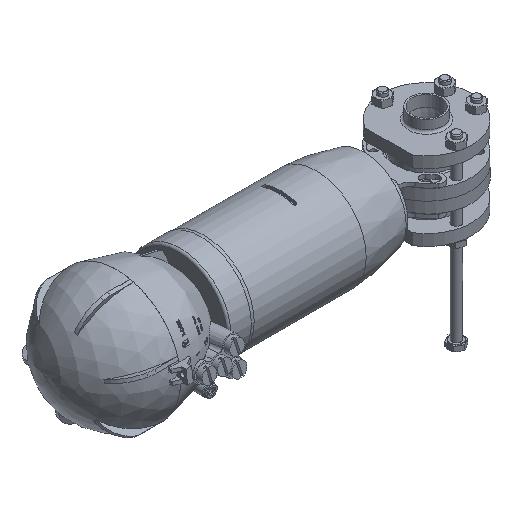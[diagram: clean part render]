
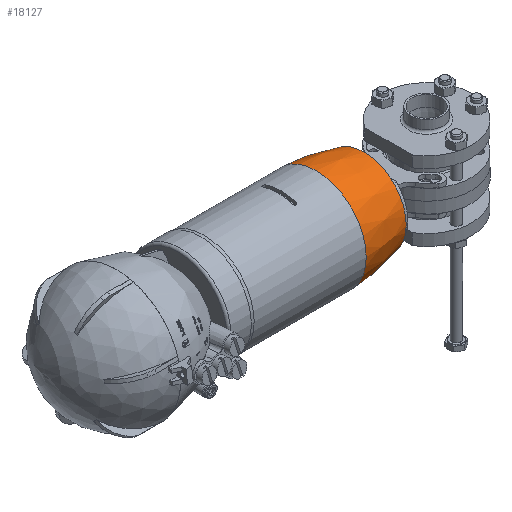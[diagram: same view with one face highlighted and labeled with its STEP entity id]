
A CAD part, isometric view. The second image highlights one B-rep face of the part: STEP entity #18127.
In plain terms, the highlighted free-form (B-spline) face has degree [2, 2] with [3, 9] control points.
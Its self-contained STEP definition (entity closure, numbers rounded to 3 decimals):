
#344=(
BOUNDED_SURFACE()
B_SPLINE_SURFACE(2,2,((#28505,#28506,#28507,#28508,#28509,#28510,#28511,
#28512,#28513),(#28514,#28515,#28516,#28517,#28518,#28519,#28520,#28521,
#28522),(#28523,#28524,#28525,#28526,#28527,#28528,#28529,#28530,#28531)),
 .UNSPECIFIED.,.F.,.T.,.F.)
B_SPLINE_SURFACE_WITH_KNOTS((3,3),(3,2,2,2,3),(0.027,0.298),
(-3.142,-1.571,0.,1.571,3.142),
 .UNSPECIFIED.)
GEOMETRIC_REPRESENTATION_ITEM()
RATIONAL_B_SPLINE_SURFACE(((1.,0.707,1.,0.707,1.,
0.707,1.,0.707,1.),(0.991,0.701,
0.991,0.701,0.991,0.701,0.991,
0.701,0.991),(1.,0.707,1.,0.707,
1.,0.707,1.,0.707,1.)))
REPRESENTATION_ITEM('')
SURFACE()
);
#2917=FACE_OUTER_BOUND('',#3960,.T.);
#3960=EDGE_LOOP('',(#13100,#13101,#13102,#13103,#13104,#13105));
#7155=CIRCLE('',#19460,44.5);
#7156=CIRCLE('',#19461,44.5);
#7158=CIRCLE('',#19463,44.5);
#7190=CIRCLE('',#19518,37.5);
#7199=CIRCLE('',#19527,160.);
#8085=VERTEX_POINT('',#28238);
#8086=VERTEX_POINT('',#28239);
#8087=VERTEX_POINT('',#28241);
#8121=VERTEX_POINT('',#28487);
#9983=EDGE_CURVE('',#8085,#8086,#7155,.T.);
#9984=EDGE_CURVE('',#8087,#8085,#7156,.T.);
#9990=EDGE_CURVE('',#8086,#8087,#7158,.T.);
#10045=EDGE_CURVE('',#8121,#8121,#7190,.T.);
#10054=EDGE_CURVE('',#8086,#8121,#7199,.T.);
#13100=ORIENTED_EDGE('',*,*,#9983,.T.);
#13101=ORIENTED_EDGE('',*,*,#10054,.T.);
#13102=ORIENTED_EDGE('',*,*,#10045,.F.);
#13103=ORIENTED_EDGE('',*,*,#10054,.F.);
#13104=ORIENTED_EDGE('',*,*,#9990,.T.);
#13105=ORIENTED_EDGE('',*,*,#9984,.T.);
#18127=ADVANCED_FACE('',(#2917),#344,.F.);
#19460=AXIS2_PLACEMENT_3D('',#28240,#22129,#22130);
#19461=AXIS2_PLACEMENT_3D('',#28242,#22131,#22132);
#19463=AXIS2_PLACEMENT_3D('',#28249,#22139,#22140);
#19518=AXIS2_PLACEMENT_3D('',#28488,#22266,#22267);
#19527=AXIS2_PLACEMENT_3D('',#28532,#22284,#22285);
#22129=DIRECTION('center_axis',(0.,-1.,0.));
#22130=DIRECTION('ref_axis',(-1.,0.,0.));
#22131=DIRECTION('center_axis',(0.,-1.,0.));
#22132=DIRECTION('ref_axis',(-1.,0.,0.));
#22139=DIRECTION('center_axis',(0.,-1.,0.));
#22140=DIRECTION('ref_axis',(-1.,0.,0.));
#22266=DIRECTION('center_axis',(0.,-1.,0.));
#22267=DIRECTION('ref_axis',(-1.,0.,0.));
#22284=DIRECTION('center_axis',(1.,0.,0.));
#22285=DIRECTION('ref_axis',(0.,0.,
1.));
#28238=CARTESIAN_POINT('',(0.,-28.317,-44.5));
#28239=CARTESIAN_POINT('',(0.,-28.317,44.5));
#28240=CARTESIAN_POINT('Origin',(0.,-28.317,0.));
#28241=CARTESIAN_POINT('',(-44.5,-28.317,0.));
#28242=CARTESIAN_POINT('Origin',(0.,-28.317,0.));
#28249=CARTESIAN_POINT('Origin',(0.,-28.317,0.));
#28487=CARTESIAN_POINT('',(0.,-71.,37.5));
#28488=CARTESIAN_POINT('Origin',(0.,-71.,
0.));
#28505=CARTESIAN_POINT('Ctrl Pts',(0.,-28.317,
44.5));
#28506=CARTESIAN_POINT('Ctrl Pts',(-44.5,-28.317,
44.5));
#28507=CARTESIAN_POINT('Ctrl Pts',(-44.5,-28.317,
0.));
#28508=CARTESIAN_POINT('Ctrl Pts',(-44.5,-28.317,
-44.5));
#28509=CARTESIAN_POINT('Ctrl Pts',(0.,-28.317,
-44.5));
#28510=CARTESIAN_POINT('Ctrl Pts',(44.5,-28.317,-44.5));
#28511=CARTESIAN_POINT('Ctrl Pts',(44.5,-28.317,0.));
#28512=CARTESIAN_POINT('Ctrl Pts',(44.5,-28.317,44.5));
#28513=CARTESIAN_POINT('Ctrl Pts',(0.,-28.317,
44.5));
#28514=CARTESIAN_POINT('Ctrl Pts',(0.,-50.136,
43.911));
#28515=CARTESIAN_POINT('Ctrl Pts',(-43.911,-50.136,
43.911));
#28516=CARTESIAN_POINT('Ctrl Pts',(-43.911,-50.136,
0.));
#28517=CARTESIAN_POINT('Ctrl Pts',(-43.911,-50.136,
-43.911));
#28518=CARTESIAN_POINT('Ctrl Pts',(0.,-50.136,
-43.911));
#28519=CARTESIAN_POINT('Ctrl Pts',(43.911,-50.136,-43.911));
#28520=CARTESIAN_POINT('Ctrl Pts',(43.911,-50.136,0.));
#28521=CARTESIAN_POINT('Ctrl Pts',(43.911,-50.136,43.911));
#28522=CARTESIAN_POINT('Ctrl Pts',(0.,-50.136,
43.911));
#28523=CARTESIAN_POINT('Ctrl Pts',(0.,-71.,
37.5));
#28524=CARTESIAN_POINT('Ctrl Pts',(-37.5,-71.,
37.5));
#28525=CARTESIAN_POINT('Ctrl Pts',(-37.5,-71.,
0.));
#28526=CARTESIAN_POINT('Ctrl Pts',(-37.5,-71.,-37.5));
#28527=CARTESIAN_POINT('Ctrl Pts',(0.,-71.,
-37.5));
#28528=CARTESIAN_POINT('Ctrl Pts',(37.5,-71.,-37.5));
#28529=CARTESIAN_POINT('Ctrl Pts',(37.5,-71.,0.));
#28530=CARTESIAN_POINT('Ctrl Pts',(37.5,-71.,37.5));
#28531=CARTESIAN_POINT('Ctrl Pts',(0.,-71.,
37.5));
#28532=CARTESIAN_POINT('Origin',(0.,-24.002,
-115.442));
